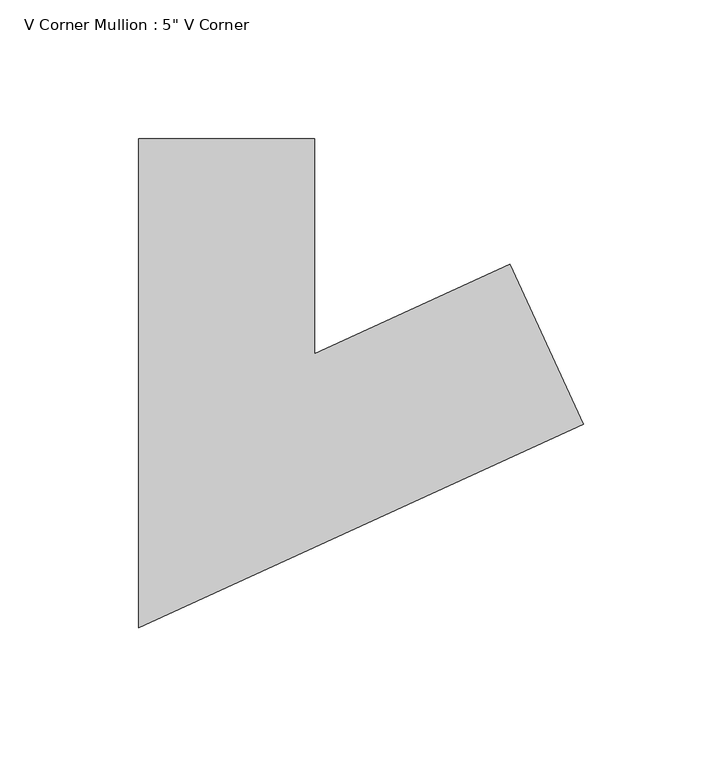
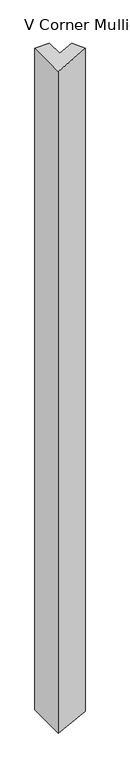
"""IFC4 building model written with IfcOpenShell, lengths in millimetres: member geometry."""

from ifc_helpers import new_model, si_unit, origin, place, context, project, spatial, faceted_brep, source, transform, mapped, element, save


def member_e705e369(model_context):
    return source(origin(), model_context, "Body", "Brep", [
        faceted_brep([(87.9205542, -39.5195451, -3056.0446713), (-72.5228811, -112.9476953, -3056.0446713), (-72.5228811, 63.5, -3056.0446713), (-9.0228811, 63.5, -3056.0446713), (-9.0228811, -14.0523047, -3056.0446713), (61.49523, 18.2208415, -3056.0446713), (61.49523, 18.2208415, 2.4549229), (87.9205542, -39.5195451, 3.5098362), (-9.0228811, -14.0523047, -0.3601983), (-9.0228811, 63.5, -0.3601983), (-72.5228811, 63.5, -2.8951527), (-72.5228811, -112.9476953, -2.8951527)], [[[0, 1, 2, 3, 4, 5]], [[6, 7, 0, 5]], [[8, 6, 5, 4]], [[9, 8, 4, 3]], [[10, 9, 3, 2]], [[11, 10, 2, 1]], [[7, 11, 1, 0]], [[7, 6, 8, 9, 10, 11]]]),
    ])


if __name__ == "__main__":
    model = new_model("IFC4")
    model_context = context("Model", 3, world=origin())
    ifc_project = project(units=[si_unit("LENGTHUNIT", "METRE", prefix="MILLI")], contexts=[model_context])
    site = spatial("IfcSite", under=ifc_project)
    building = spatial("IfcBuilding", under=site)
    placement = place(None, origin())
    member_shape = member_e705e369(model_context)
    element("IfcMember", 1, ObjectType="V Corner Mullion : 5\" V Corner", at=placement, inside=building, context=model_context, shape_type="MappedRepresentation", body=[
        mapped(member_shape, transform((0.0, 0.0, 0.0), x_axis=(1.0, 0.0, 0.0), y_axis=(0.0, 1.0, 0.0), z_axis=(0.0, 0.0, 1.0))),
    ])
    save(model, "model.ifc")
